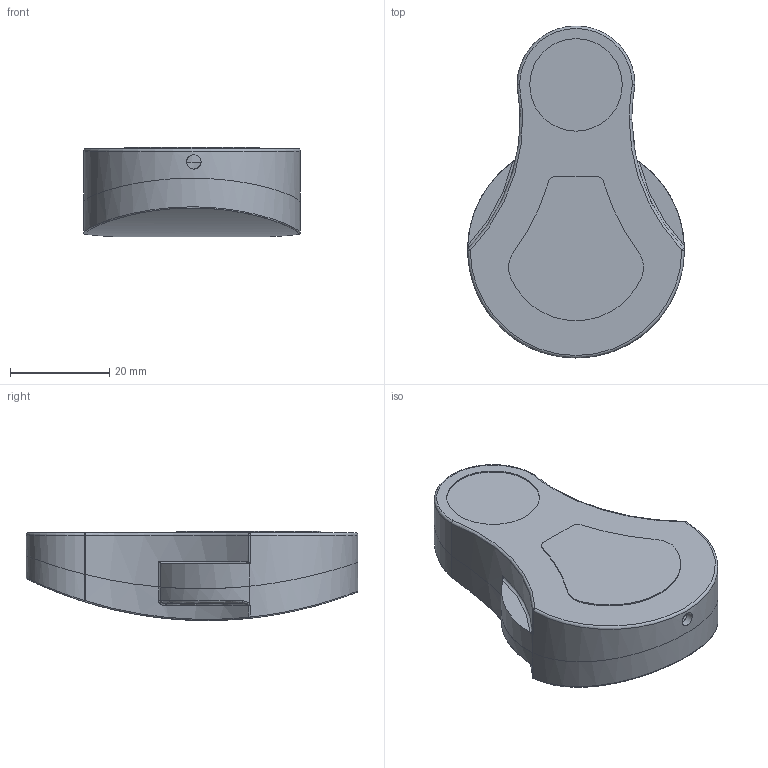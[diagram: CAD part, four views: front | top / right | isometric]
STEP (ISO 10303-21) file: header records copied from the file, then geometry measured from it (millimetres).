
FILE_DESCRIPTION(/* description */ (''),/* implementation_level */ '2;1');
FILE_NAME(/* name */ 'CP21.stp',/* time_stamp */ '2019-05-07T20:11:59+08:00',/* author */ (''),/* organization */ (''),/* preprocessor_version */ 'ST-DEVELOPER v16',/* originating_system */ 'SIEMENS PLM Software NX 10.0',/* authorisation */ '');
FILE_SCHEMA (('AUTOMOTIVE_DESIGN { 1 0 10303 214 3 1 1 1 }'));
Length unit declared in the file: millimetre
Products named in the file (3): 5_id6_x_t; --1_id10_x_t; CP20_x_t
Assembly tree (2 placements, depth 2):
  CP20_x_t
    --1_id10_x_t
    5_id6_x_t
Bounding box: 43.71 x 66.98 x 17.99 mm (x, y, z)
Volume: 4484.4 mm3; surface area: 14005.8 mm2
Topology: 2 solids, 2 shells, 135 faces, 345 edges, 221 vertices
Faces by surface type: cylinder 72, bspline 30, plane 16, torus 14, sphere 3
Full cylindrical faces by diameter (mm): 2.894 x1
Entity records: 6031 total; most frequent: CARTESIAN_POINT 3039, ORIENTED_EDGE 688, DIRECTION 491, EDGE_CURVE 344, VERTEX_POINT 222, AXIS2_PLACEMENT_3D 202, B_SPLINE_CURVE_WITH_KNOTS 159, EDGE_LOOP 146
